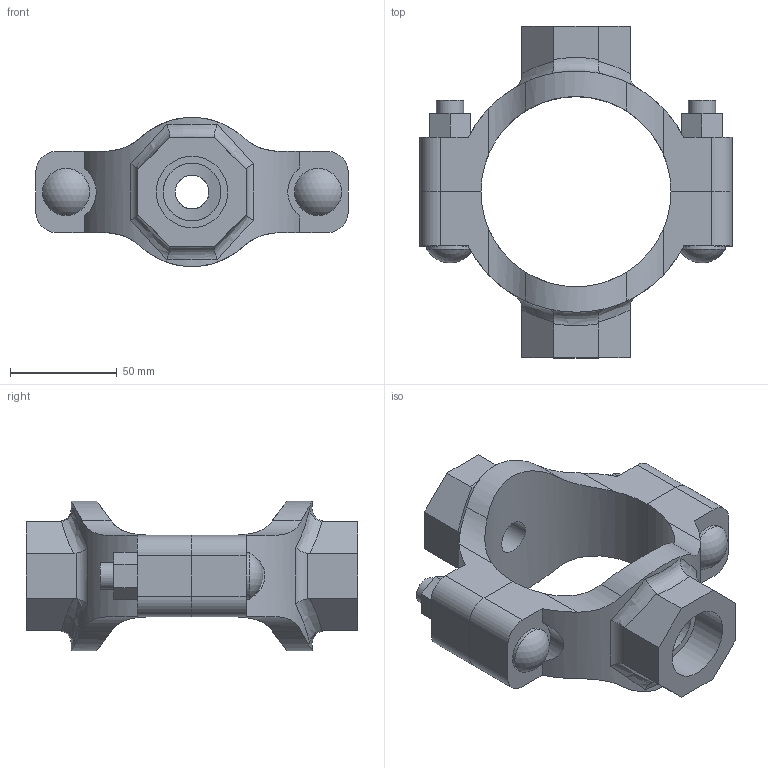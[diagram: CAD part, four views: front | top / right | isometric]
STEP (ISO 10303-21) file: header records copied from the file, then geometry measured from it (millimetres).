
FILE_DESCRIPTION(/* description */ ('VIC MECH-T BRANCH OUTLET CROSS STYLE 920N (THD)','CAx-IF Rec.Pracs.---Representation and Presentation of Product Manufacturing Information (PMI)---4.0---2014-10-13'),/* implementation_level */ '2;1');
FILE_NAME(/* name */ 'C:\Users\Vjadhav\AppData\Roaming\Autodesk\ApplicationPlugins\Back Up\Victaulic_IPS_Mechanical-Cross Outlet_Style 920N (FPT)\Victaulic_IPS_Mechanical-Cross Outlet_03.0x0.5x01.0 (80x15x25).stp',/* time_stamp */ '2020-08-06T18:57:06+05:00',/* author */ ('Vjadhav'),/* organization */ ('Victaulic'),/* preprocessor_version */ 'ST-DEVELOPER v17.2',/* originating_system */ 'Autodesk Inventor 2019',/* authorisation */ '');
FILE_SCHEMA (('AUTOMOTIVE_DESIGN { 1 0 10303 214 3 1 1 }','AP242_MANAGED_MODEL_BASED_3D_ENGINEERING_MIM_LF { 1 0 10303 442 1 1 4 }'));
Length unit declared in the file: inch
Products named in the file (3): 920NT-03.0x0.5x01.0; 920NT-03.0x0.5; 920NT-03.0x01.0
Assembly tree (2 placements, depth 2):
  920NT-03.0x0.5x01.0
    920NT-03.0x0.5
    920NT-03.0x01.0
Bounding box: 146.05 x 155.19 x 69.84 mm (x, y, z)
Volume: 312353.2 mm3; surface area: 71866.5 mm2
Topology: 2 solids, 2 shells, 132 faces, 350 edges, 236 vertices
Faces by surface type: plane 68, cylinder 50, bspline 8, torus 4, sphere 2
Full cylindrical faces by diameter (mm): 12.7 x4, 15.799 x1, 21.336 x1, 21.982 x2, 26.987 x1, 33.401 x1
Entity records: 5086 total; most frequent: CARTESIAN_POINT 1573, ORIENTED_EDGE 700, DIRECTION 648, EDGE_CURVE 350, VERTEX_POINT 236, AXIS2_PLACEMENT_3D 231, LINE 186, VECTOR 186
